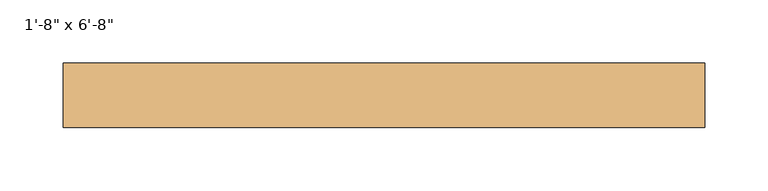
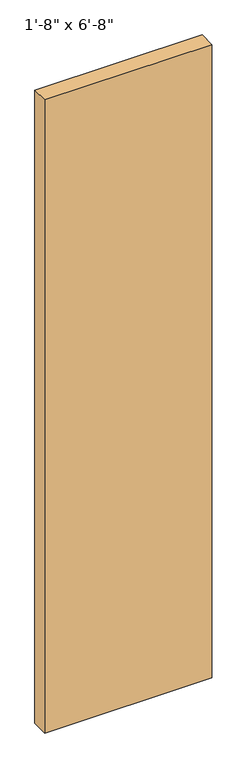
"""IFC4 building model written with IfcOpenShell, lengths in millimetres: door geometry."""

from ifc_helpers import new_model, si_unit, origin, origin_with_axes, place, context, project, spatial, polyline, outline, extrude, source, transform, mapped, element, save


def door_38152ee4(model_context):
    return source(origin(), model_context, "Body", "SweptSolid", [
        extrude(outline(polyline([(254.0, -6.1515625), (254.0, -57.15), (-254.0, -57.15), (-254.0, -6.1515625), (254.0, -6.1515625)])), origin_with_axes(), (0.0, 0.0, 1.0), 2032.0),
    ])


if __name__ == "__main__":
    model = new_model("IFC4")
    model_context = context("Model", 3, world=origin())
    ifc_project = project(units=[si_unit("LENGTHUNIT", "METRE", prefix="MILLI")], contexts=[model_context])
    site = spatial("IfcSite", under=ifc_project)
    building = spatial("IfcBuilding", under=site)
    placement = place(None, origin())
    door_shape = door_38152ee4(model_context)
    element("IfcDoor", 1, ObjectType="Planitar - Single Door_Flush Panel : 1'-8\" x 6'-8\"", at=placement, inside=building, context=model_context, shape_type="MappedRepresentation", body=[
        mapped(door_shape, transform((0.0, 0.0, 0.0), x_axis=(1.0, 0.0, 0.0), y_axis=(0.0, 1.0, 0.0), z_axis=(0.0, 0.0, 1.0))),
    ])
    save(model, "model.ifc")
